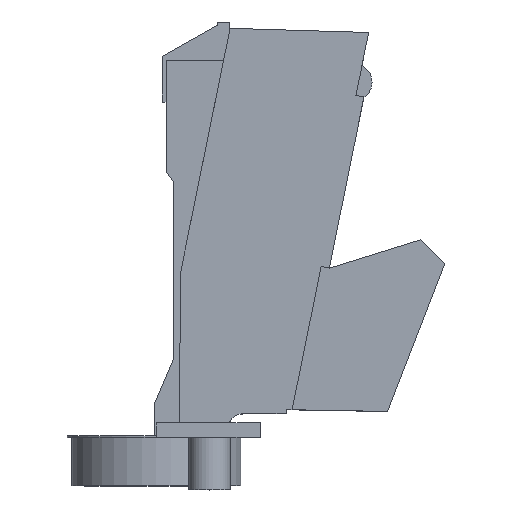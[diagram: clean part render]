
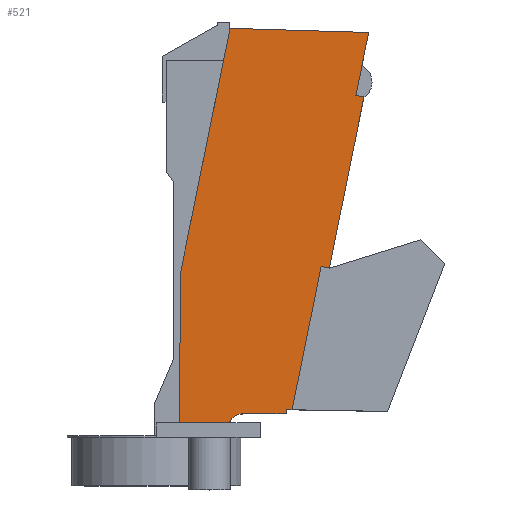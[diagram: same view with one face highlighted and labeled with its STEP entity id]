
A CAD part, top view. The second image highlights one B-rep face of the part: STEP entity #521.
In plain terms, the highlighted planar face has unit normal (0, 0, 1).
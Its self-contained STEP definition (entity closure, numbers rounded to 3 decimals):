
#25 = AXIS2_PLACEMENT_3D ( 'NONE', #852, #858, #859 ) ;
#102 = EDGE_CURVE ( 'NONE', #1592, #1586, #1747, .T. ) ;
#113 = EDGE_CURVE ( 'NONE', #1449, #1574, #1739, .T. ) ;
#116 = EDGE_CURVE ( 'NONE', #1586, #1560, #1751, .T. ) ;
#117 = EDGE_CURVE ( 'NONE', #1568, #1443, #1723, .T. ) ;
#147 = EDGE_CURVE ( 'NONE', #1420, #1594, #1167, .T. ) ;
#153 = EDGE_CURVE ( 'NONE', #1353, #1568, #1162, .T. ) ;
#171 = EDGE_CURVE ( 'NONE', #1411, #1420, #1140, .T. ) ;
#185 = EDGE_CURVE ( 'NONE', #1592, #1387, #1091, .T. ) ;
#186 = EDGE_CURVE ( 'NONE', #1560, #1411, #1110, .T. ) ;
#187 = EDGE_CURVE ( 'NONE', #1353, #1449, #1086, .T. ) ;
#188 = EDGE_CURVE ( 'NONE', #1594, #1574, #1084, .T. ) ;
#190 = EDGE_CURVE ( 'NONE', #1542, #1387, #1080, .T. ) ;
#191 = EDGE_CURVE ( 'NONE', #1443, #1542, #1078, .T. ) ;
#275 = AXIS2_PLACEMENT_3D ( 'NONE', #1309, #1303, #1302 ) ;
#521 = ADVANCED_FACE ( 'NONE', ( #678 ), #541, .T. ) ;
#541 = PLANE ( 'NONE',  #25 ) ;
#678 = FACE_OUTER_BOUND ( 'NONE', #1768, .T. ) ;
#852 = CARTESIAN_POINT ( 'NONE',  ( 20.368, 1.92, 12.1 ) ) ;
#858 = DIRECTION ( 'NONE',  ( 0., 0., 1. ) ) ;
#859 = DIRECTION ( 'NONE',  ( 1., 0., 0. ) ) ;
#933 = CARTESIAN_POINT ( 'NONE',  ( 43.828, 70.889, 12.1 ) ) ;
#946 = CARTESIAN_POINT ( 'NONE',  ( 7.242, 3., 12.1 ) ) ;
#955 = CARTESIAN_POINT ( 'NONE',  ( 29.38, 5.785, 12.1 ) ) ;
#958 = CARTESIAN_POINT ( 'NONE',  ( 30.613, 5.763, 12.1 ) ) ;
#965 = CARTESIAN_POINT ( 'NONE',  ( 17.765, 84.772, 12.1 ) ) ;
#967 = CARTESIAN_POINT ( 'NONE',  ( 45.494, 70.551, 12.1 ) ) ;
#998 = CARTESIAN_POINT ( 'NONE',  ( 7.52, 34.28, 12.1 ) ) ;
#1005 = CARTESIAN_POINT ( 'NONE',  ( 29.38, 5.02, 12.1 ) ) ;
#1007 = CARTESIAN_POINT ( 'NONE',  ( 46.47, 83.91, 12.1 ) ) ;
#1009 = CARTESIAN_POINT ( 'NONE',  ( 38.299, 35.092, 12.1 ) ) ;
#1013 = CARTESIAN_POINT ( 'NONE',  ( 20.335, 4.92, 12.1 ) ) ;
#1015 = CARTESIAN_POINT ( 'NONE',  ( 17.569, 3., 12.1 ) ) ;
#1016 = CARTESIAN_POINT ( 'NONE',  ( 36.633, 35.43, 12.1 ) ) ;
#1077 = VECTOR ( 'NONE', #1467, 1000. ) ;
#1078 = LINE ( 'NONE', #1469, #1077 ) ;
#1079 = VECTOR ( 'NONE', #1471, 1000. ) ;
#1080 = LINE ( 'NONE', #1472, #1079 ) ;
#1083 = VECTOR ( 'NONE', #1477, 1000. ) ;
#1084 = LINE ( 'NONE', #1478, #1083 ) ;
#1085 = VECTOR ( 'NONE', #1479, 1000. ) ;
#1086 = LINE ( 'NONE', #1481, #1085 ) ;
#1088 = VECTOR ( 'NONE', #1483, 1000. ) ;
#1089 = VECTOR ( 'NONE', #1486, 1000. ) ;
#1091 = LINE ( 'NONE', #1487, #1089 ) ;
#1110 = LINE ( 'NONE', #1490, #1088 ) ;
#1121 = VECTOR ( 'NONE', #1528, 1000. ) ;
#1140 = LINE ( 'NONE', #1541, #1121 ) ;
#1157 = VECTOR ( 'NONE', #1585, 1000. ) ;
#1162 = LINE ( 'NONE', #1589, #1157 ) ;
#1167 = LINE ( 'NONE', #1613, #1171 ) ;
#1171 = VECTOR ( 'NONE', #1604, 1000. ) ;
#1198 = DIRECTION ( 'NONE',  ( -0.199, -0.98, 0. ) ) ;
#1205 = CARTESIAN_POINT ( 'NONE',  ( 20.335, 4.92, 12.1 ) ) ;
#1216 = CARTESIAN_POINT ( 'NONE',  ( 38.299, 35.092, 12.1 ) ) ;
#1302 = DIRECTION ( 'NONE',  ( 1., 0., 0. ) ) ;
#1303 = DIRECTION ( 'NONE',  ( 0., 0., -1. ) ) ;
#1309 = CARTESIAN_POINT ( 'NONE',  ( 20.368, 1.92, 12.1 ) ) ;
#1353 = VERTEX_POINT ( 'NONE', #933 ) ;
#1387 = VERTEX_POINT ( 'NONE', #946 ) ;
#1411 = VERTEX_POINT ( 'NONE', #955 ) ;
#1420 = VERTEX_POINT ( 'NONE', #958 ) ;
#1443 = VERTEX_POINT ( 'NONE', #965 ) ;
#1449 = VERTEX_POINT ( 'NONE', #967 ) ;
#1467 = DIRECTION ( 'NONE',  ( -0.199, -0.98, 0. ) ) ;
#1469 = CARTESIAN_POINT ( 'NONE',  ( 17.765, 84.772, 12.1 ) ) ;
#1471 = DIRECTION ( 'NONE',  ( -0.009, -1., 0. ) ) ;
#1472 = CARTESIAN_POINT ( 'NONE',  ( 7.215, 0., 12.1 ) ) ;
#1477 = DIRECTION ( 'NONE',  ( 0.98, -0.199, 0. ) ) ;
#1478 = CARTESIAN_POINT ( 'NONE',  ( 0.838, 42.693, 12.1 ) ) ;
#1479 = DIRECTION ( 'NONE',  ( 0.98, -0.199, 0. ) ) ;
#1481 = CARTESIAN_POINT ( 'NONE',  ( 8.032, 78.152, 12.1 ) ) ;
#1483 = DIRECTION ( 'NONE',  ( 0., 1., 0. ) ) ;
#1486 = DIRECTION ( 'NONE',  ( -1., 0., 0. ) ) ;
#1487 = CARTESIAN_POINT ( 'NONE',  ( 20.368, 3., 12.1 ) ) ;
#1490 = CARTESIAN_POINT ( 'NONE',  ( 29.38, 5.02, 12.1 ) ) ;
#1528 = DIRECTION ( 'NONE',  ( 1., -0.017, 0. ) ) ;
#1541 = CARTESIAN_POINT ( 'NONE',  ( 29.38, 5.785, 12.1 ) ) ;
#1542 = VERTEX_POINT ( 'NONE', #998 ) ;
#1560 = VERTEX_POINT ( 'NONE', #1005 ) ;
#1568 = VERTEX_POINT ( 'NONE', #1007 ) ;
#1574 = VERTEX_POINT ( 'NONE', #1009 ) ;
#1585 = DIRECTION ( 'NONE',  ( 0.199, 0.98, 0. ) ) ;
#1586 = VERTEX_POINT ( 'NONE', #1013 ) ;
#1589 = CARTESIAN_POINT ( 'NONE',  ( 45.06, 76.962, 12.1 ) ) ;
#1592 = VERTEX_POINT ( 'NONE', #1015 ) ;
#1594 = VERTEX_POINT ( 'NONE', #1016 ) ;
#1604 = DIRECTION ( 'NONE',  ( 0.199, 0.98, 0. ) ) ;
#1613 = CARTESIAN_POINT ( 'NONE',  ( 45.06, 76.962, 12.1 ) ) ;
#1697 = DIRECTION ( 'NONE',  ( -1., 0.03, 0. ) ) ;
#1698 = CARTESIAN_POINT ( 'NONE',  ( 17.765, 84.772, 12.1 ) ) ;
#1699 = DIRECTION ( 'NONE',  ( 1., 0.011, 0. ) ) ;
#1722 = VECTOR ( 'NONE', #1697, 1000. ) ;
#1723 = LINE ( 'NONE', #1698, #1722 ) ;
#1725 = VECTOR ( 'NONE', #1699, 1000. ) ;
#1731 = VECTOR ( 'NONE', #1198, 1000. ) ;
#1739 = LINE ( 'NONE', #1216, #1731 ) ;
#1747 = CIRCLE ( 'NONE', #275, 3. ) ;
#1751 = LINE ( 'NONE', #1205, #1725 ) ;
#1768 = EDGE_LOOP ( 'NONE', ( #1958, #1959, #1960, #1961, #1962, #1963, #1964, #1965, #1966, #1967, #1968, #1969, #1970 ) ) ;
#1958 = ORIENTED_EDGE ( 'NONE', *, *, #185, .F. ) ;
#1959 = ORIENTED_EDGE ( 'NONE', *, *, #102, .T. ) ;
#1960 = ORIENTED_EDGE ( 'NONE', *, *, #116, .T. ) ;
#1961 = ORIENTED_EDGE ( 'NONE', *, *, #186, .T. ) ;
#1962 = ORIENTED_EDGE ( 'NONE', *, *, #171, .T. ) ;
#1963 = ORIENTED_EDGE ( 'NONE', *, *, #147, .T. ) ;
#1964 = ORIENTED_EDGE ( 'NONE', *, *, #188, .T. ) ;
#1965 = ORIENTED_EDGE ( 'NONE', *, *, #113, .F. ) ;
#1966 = ORIENTED_EDGE ( 'NONE', *, *, #187, .F. ) ;
#1967 = ORIENTED_EDGE ( 'NONE', *, *, #153, .T. ) ;
#1968 = ORIENTED_EDGE ( 'NONE', *, *, #117, .T. ) ;
#1969 = ORIENTED_EDGE ( 'NONE', *, *, #191, .T. ) ;
#1970 = ORIENTED_EDGE ( 'NONE', *, *, #190, .T. ) ;
